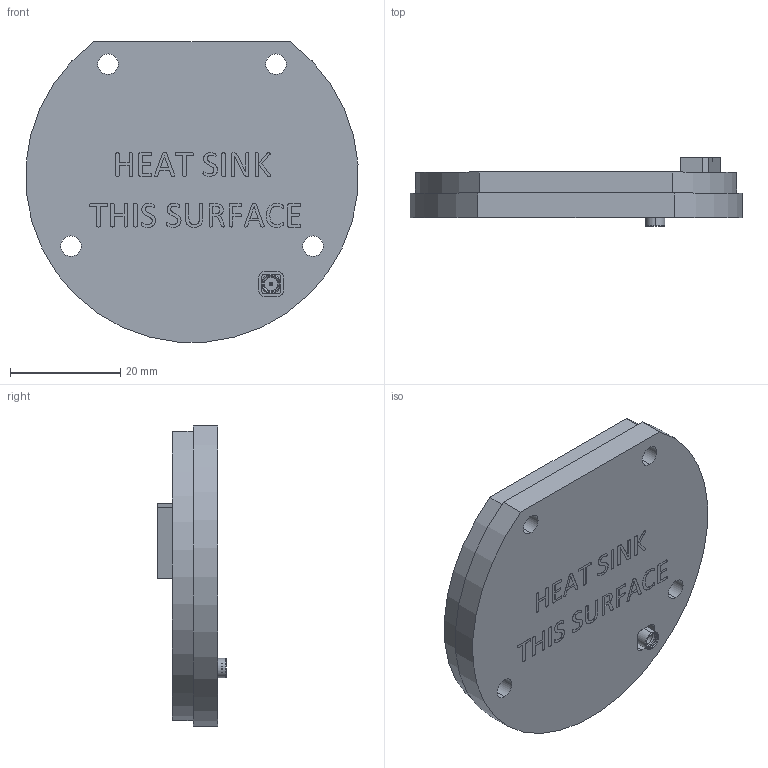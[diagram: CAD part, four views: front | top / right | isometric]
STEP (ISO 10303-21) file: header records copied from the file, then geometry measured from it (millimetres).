
FILE_DESCRIPTION (( 'STEP AP203' ), '1' );
FILE_NAME ('01EP.STEP', '2019-03-01T14:54:32', ( '' ), ( '' ), 'SwSTEP 2.0', 'SolidWorks 2018', '' );
FILE_SCHEMA (( 'CONFIG_CONTROL_DESIGN' ));
Length unit declared in the file: inch
Products named in the file (1): 01EP
Bounding box: 60.24 x 12.46 x 54.45 mm (x, y, z)
Volume: 21344.1 mm3; surface area: 8210.3 mm2
Topology: 5 solids, 5 shells, 661 faces, 1780 edges, 1169 vertices
Faces by surface type: plane 381, bspline 194, cylinder 62, cone 20, torus 4
Entity records: 28698 total; most frequent: CARTESIAN_POINT 13281, ORIENTED_EDGE 3552, DIRECTION 2473, EDGE_CURVE 1776, LINE 1199, VECTOR 1199, VERTEX_POINT 1169, EDGE_LOOP 713
